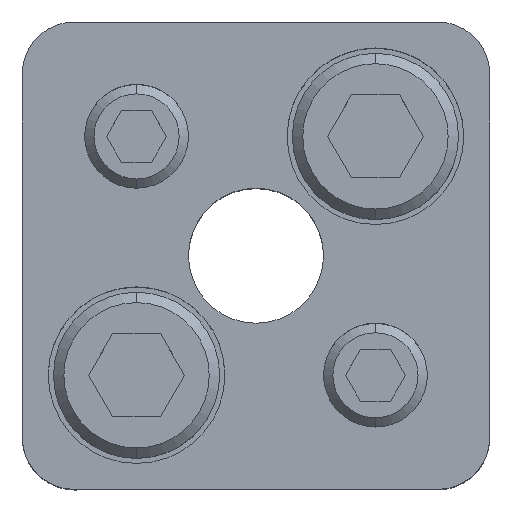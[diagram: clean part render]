
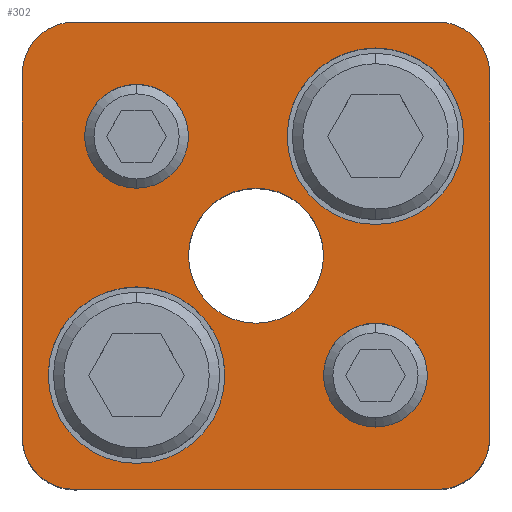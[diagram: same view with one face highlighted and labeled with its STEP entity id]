
A CAD part, top view. The second image highlights one B-rep face of the part: STEP entity #302.
In plain terms, the highlighted planar face has unit normal (0, 0, 1).
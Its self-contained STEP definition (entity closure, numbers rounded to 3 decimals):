
#161=PLANE('',#2460);
#224=FACE_BOUND('',#627,.T.);
#225=FACE_BOUND('',#628,.T.);
#226=FACE_BOUND('',#629,.T.);
#227=FACE_BOUND('',#630,.T.);
#228=FACE_BOUND('',#631,.T.);
#229=FACE_BOUND('',#632,.T.);
#302=ADVANCED_FACE('',(#224,#225,#226,#227,#228,#229),#161,.T.);
#627=EDGE_LOOP('',(#1277,#1278,#1279,#1280,#1281,#1282,#1283,#1284));
#628=EDGE_LOOP('',(#1285,#1286));
#629=EDGE_LOOP('',(#1287,#1288));
#630=EDGE_LOOP('',(#1289,#1290));
#631=EDGE_LOOP('',(#1291,#1292));
#632=EDGE_LOOP('',(#1293,#1294));
#779=LINE('',#3601,#949);
#780=LINE('',#3605,#950);
#781=LINE('',#3609,#951);
#782=LINE('',#3613,#952);
#949=VECTOR('',#2877,1.);
#950=VECTOR('',#2880,1.);
#951=VECTOR('',#2883,1.);
#952=VECTOR('',#2886,1.);
#1277=ORIENTED_EDGE('',*,*,#2005,.T.);
#1278=ORIENTED_EDGE('',*,*,#2006,.T.);
#1279=ORIENTED_EDGE('',*,*,#2007,.T.);
#1280=ORIENTED_EDGE('',*,*,#2008,.T.);
#1281=ORIENTED_EDGE('',*,*,#2009,.T.);
#1282=ORIENTED_EDGE('',*,*,#2010,.T.);
#1283=ORIENTED_EDGE('',*,*,#2011,.T.);
#1284=ORIENTED_EDGE('',*,*,#2012,.T.);
#1285=ORIENTED_EDGE('',*,*,#2013,.F.);
#1286=ORIENTED_EDGE('',*,*,#2014,.F.);
#1287=ORIENTED_EDGE('',*,*,#2015,.F.);
#1288=ORIENTED_EDGE('',*,*,#2016,.F.);
#1289=ORIENTED_EDGE('',*,*,#1991,.F.);
#1290=ORIENTED_EDGE('',*,*,#1987,.F.);
#1291=ORIENTED_EDGE('',*,*,#1985,.F.);
#1292=ORIENTED_EDGE('',*,*,#1981,.F.);
#1293=ORIENTED_EDGE('',*,*,#2017,.T.);
#1294=ORIENTED_EDGE('',*,*,#2018,.T.);
#1755=VERTEX_POINT('',#3549);
#1756=VERTEX_POINT('',#3550);
#1759=VERTEX_POINT('',#3562);
#1760=VERTEX_POINT('',#3563);
#1771=VERTEX_POINT('',#3599);
#1772=VERTEX_POINT('',#3600);
#1773=VERTEX_POINT('',#3602);
#1774=VERTEX_POINT('',#3604);
#1775=VERTEX_POINT('',#3606);
#1776=VERTEX_POINT('',#3608);
#1777=VERTEX_POINT('',#3610);
#1778=VERTEX_POINT('',#3612);
#1779=VERTEX_POINT('',#3615);
#1780=VERTEX_POINT('',#3616);
#1781=VERTEX_POINT('',#3619);
#1782=VERTEX_POINT('',#3620);
#1783=VERTEX_POINT('',#3623);
#1784=VERTEX_POINT('',#3624);
#1981=EDGE_CURVE('',#1755,#1756,#2255,.T.);
#1985=EDGE_CURVE('',#1756,#1755,#2257,.T.);
#1987=EDGE_CURVE('',#1759,#1760,#2259,.T.);
#1991=EDGE_CURVE('',#1760,#1759,#2261,.T.);
#2005=EDGE_CURVE('',#1771,#1772,#2271,.T.);
#2006=EDGE_CURVE('',#1772,#1773,#779,.T.);
#2007=EDGE_CURVE('',#1773,#1774,#2272,.T.);
#2008=EDGE_CURVE('',#1774,#1775,#780,.T.);
#2009=EDGE_CURVE('',#1775,#1776,#2273,.T.);
#2010=EDGE_CURVE('',#1776,#1777,#781,.T.);
#2011=EDGE_CURVE('',#1777,#1778,#2274,.T.);
#2012=EDGE_CURVE('',#1778,#1771,#782,.T.);
#2013=EDGE_CURVE('',#1779,#1780,#2275,.T.);
#2014=EDGE_CURVE('',#1780,#1779,#2276,.T.);
#2015=EDGE_CURVE('',#1781,#1782,#2277,.T.);
#2016=EDGE_CURVE('',#1782,#1781,#2278,.T.);
#2017=EDGE_CURVE('',#1783,#1784,#2279,.T.);
#2018=EDGE_CURVE('',#1784,#1783,#2280,.T.);
#2255=CIRCLE('',#2424,5.);
#2257=CIRCLE('',#2427,5.);
#2259=CIRCLE('',#2431,5.);
#2261=CIRCLE('',#2434,5.);
#2271=CIRCLE('',#2450,5.);
#2272=CIRCLE('',#2451,5.);
#2273=CIRCLE('',#2452,5.);
#2274=CIRCLE('',#2453,5.);
#2275=CIRCLE('',#2454,8.5);
#2276=CIRCLE('',#2455,8.5);
#2277=CIRCLE('',#2456,8.5);
#2278=CIRCLE('',#2457,8.5);
#2279=CIRCLE('',#2458,6.5);
#2280=CIRCLE('',#2459,6.5);
#2424=AXIS2_PLACEMENT_3D('',#3548,#2815,#2816);
#2427=AXIS2_PLACEMENT_3D('',#3557,#2823,#2824);
#2431=AXIS2_PLACEMENT_3D('',#3561,#2831,#2832);
#2434=AXIS2_PLACEMENT_3D('',#3570,#2839,#2840);
#2450=AXIS2_PLACEMENT_3D('',#3598,#2875,#2876);
#2451=AXIS2_PLACEMENT_3D('',#3603,#2878,#2879);
#2452=AXIS2_PLACEMENT_3D('',#3607,#2881,#2882);
#2453=AXIS2_PLACEMENT_3D('',#3611,#2884,#2885);
#2454=AXIS2_PLACEMENT_3D('',#3614,#2887,#2888);
#2455=AXIS2_PLACEMENT_3D('',#3617,#2889,#2890);
#2456=AXIS2_PLACEMENT_3D('',#3618,#2891,#2892);
#2457=AXIS2_PLACEMENT_3D('',#3621,#2893,#2894);
#2458=AXIS2_PLACEMENT_3D('',#3622,#2895,#2896);
#2459=AXIS2_PLACEMENT_3D('',#3625,#2897,#2898);
#2460=AXIS2_PLACEMENT_3D('',#3626,#2899,#2900);
#2815=DIRECTION('',(0.,0.,1.));
#2816=DIRECTION('',(-1.,0.,0.));
#2823=DIRECTION('',(0.,0.,1.));
#2824=DIRECTION('',(1.,0.,0.));
#2831=DIRECTION('',(0.,0.,1.));
#2832=DIRECTION('',(-1.,0.,0.));
#2839=DIRECTION('',(0.,0.,1.));
#2840=DIRECTION('',(1.,0.,0.));
#2875=DIRECTION('',(0.,0.,1.));
#2876=DIRECTION('',(-0.707,0.707,0.));
#2877=DIRECTION('',(0.,1.,0.));
#2878=DIRECTION('',(0.,0.,1.));
#2879=DIRECTION('',(-0.707,-0.707,0.));
#2880=DIRECTION('',(-1.,0.,0.));
#2881=DIRECTION('',(0.,0.,1.));
#2882=DIRECTION('',(0.707,-0.707,0.));
#2883=DIRECTION('',(0.,-1.,0.));
#2884=DIRECTION('',(0.,0.,1.));
#2885=DIRECTION('',(0.707,0.707,0.));
#2886=DIRECTION('',(1.,0.,0.));
#2887=DIRECTION('',(0.,0.,1.));
#2888=DIRECTION('',(1.,0.,0.));
#2889=DIRECTION('',(0.,0.,1.));
#2890=DIRECTION('',(-1.,0.,0.));
#2891=DIRECTION('',(0.,0.,1.));
#2892=DIRECTION('',(1.,0.,0.));
#2893=DIRECTION('',(0.,0.,1.));
#2894=DIRECTION('',(-1.,0.,0.));
#2895=DIRECTION('',(0.,0.,-1.));
#2896=DIRECTION('',(-1.,0.,0.));
#2897=DIRECTION('',(0.,0.,-1.));
#2898=DIRECTION('',(1.,0.,0.));
#2899=DIRECTION('',(0.,0.,1.));
#2900=DIRECTION('',(-1.,0.,0.));
#3548=CARTESIAN_POINT('',(11.5,-11.5,35.));
#3549=CARTESIAN_POINT('',(11.5,-16.5,35.));
#3550=CARTESIAN_POINT('',(11.5,-6.5,35.));
#3557=CARTESIAN_POINT('',(11.5,-11.5,35.));
#3561=CARTESIAN_POINT('',(-11.5,11.5,35.));
#3562=CARTESIAN_POINT('',(-11.5,6.5,35.));
#3563=CARTESIAN_POINT('',(-11.5,16.5,35.));
#3570=CARTESIAN_POINT('',(-11.5,11.5,35.));
#3598=CARTESIAN_POINT('',(17.5,-17.5,35.));
#3599=CARTESIAN_POINT('',(17.5,-22.5,35.));
#3600=CARTESIAN_POINT('',(22.5,-17.5,35.));
#3601=CARTESIAN_POINT('',(22.5,17.5,35.));
#3602=CARTESIAN_POINT('',(22.5,17.5,35.));
#3603=CARTESIAN_POINT('',(17.5,17.5,35.));
#3604=CARTESIAN_POINT('',(17.5,22.5,35.));
#3605=CARTESIAN_POINT('',(-17.5,22.5,35.));
#3606=CARTESIAN_POINT('',(-17.5,22.5,35.));
#3607=CARTESIAN_POINT('',(-17.5,17.5,35.));
#3608=CARTESIAN_POINT('',(-22.5,17.5,35.));
#3609=CARTESIAN_POINT('',(-22.5,17.5,35.));
#3610=CARTESIAN_POINT('',(-22.5,-17.5,35.));
#3611=CARTESIAN_POINT('',(-17.5,-17.5,35.));
#3612=CARTESIAN_POINT('',(-17.5,-22.5,35.));
#3613=CARTESIAN_POINT('',(-17.5,-22.5,35.));
#3614=CARTESIAN_POINT('',(11.5,11.5,35.));
#3615=CARTESIAN_POINT('',(11.5,20.,35.));
#3616=CARTESIAN_POINT('',(11.5,3.,35.));
#3617=CARTESIAN_POINT('',(11.5,11.5,35.));
#3618=CARTESIAN_POINT('',(-11.5,-11.5,35.));
#3619=CARTESIAN_POINT('',(-11.5,-3.,35.));
#3620=CARTESIAN_POINT('',(-11.5,-20.,35.));
#3621=CARTESIAN_POINT('',(-11.5,-11.5,35.));
#3622=CARTESIAN_POINT('',(0.,0.,35.));
#3623=CARTESIAN_POINT('',(0.,6.5,35.));
#3624=CARTESIAN_POINT('',(0.,-6.5,35.));
#3625=CARTESIAN_POINT('',(0.,0.,35.));
#3626=CARTESIAN_POINT('',(17.5,-22.5,35.));
